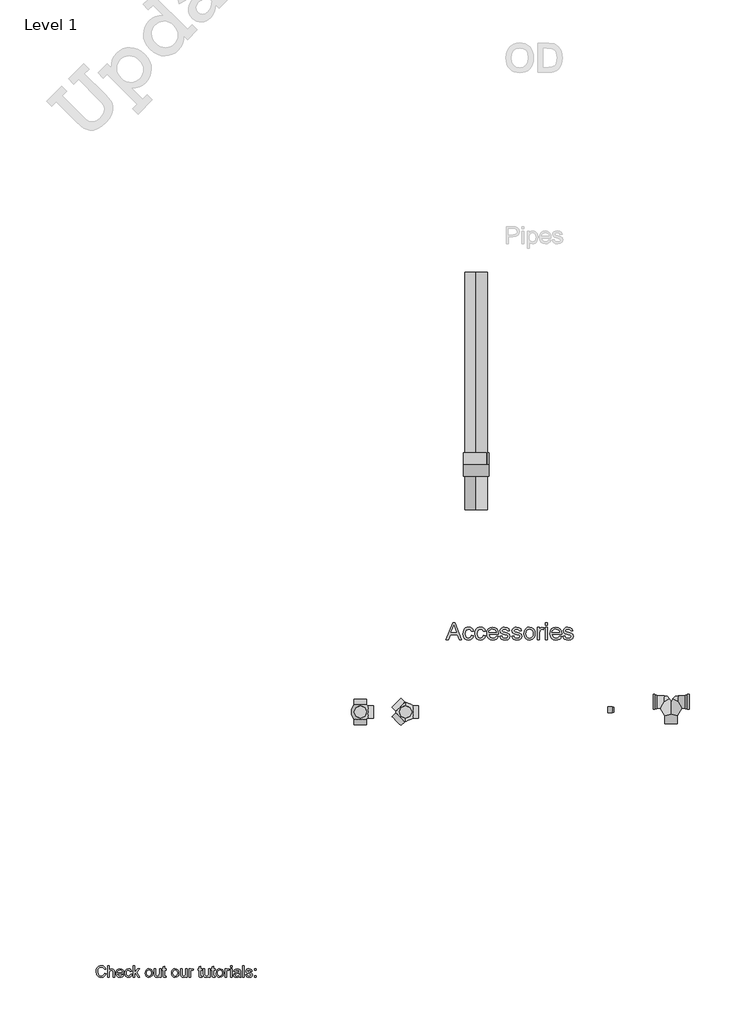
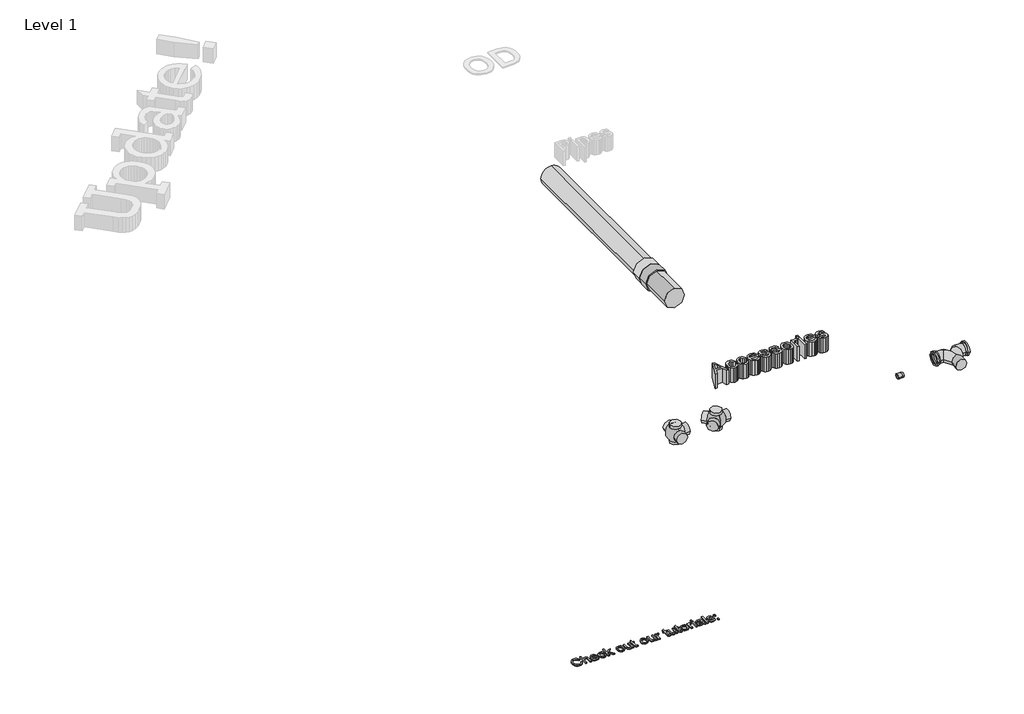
# One storey, part 1 of 2: 5 pipe fittings, 2 pipe segments, 2 proxies.
"""IFC4 building model written with IfcOpenShell, lengths in millimetres."""

from ifc_helpers import new_model, si_unit, point, frame, frame_2d, origin, origin_with_axes, place, context, project, spatial, polyline, circle_curve, trimmed, segment, composite_curve, outline, extrude, transform, mapped, element, save
from components import pipe_fitting_54520c76, pipe_fitting_47a06b1f, pipe_fitting_110mm_82014047, pipe_fitting_bb78ae25, var_9b790998

model = new_model("IFC4")

# Units and contexts
model_context = context("Model", 3, world=origin())
ifc_project = project(units=[si_unit("LENGTHUNIT", "METRE", prefix="MILLI")], contexts=[model_context])

# Site, building, storey
site = spatial("IfcSite", under=ifc_project)
building = spatial("IfcBuilding", under=site)
storey = spatial("IfcBuildingStorey", under=building, Name="Level 1", Elevation=0.0)

# Proxies
placement = place(None, origin())
element("IfcBuildingElementProxy", 1, Name="Arial 100", ObjectType="Arial 100", at=placement, inside=storey, context=model_context, shape_type="SweptSolid", body=[
    extrude(outline(polyline([(2259.9380169, 2354.0048448), (2272.4950556, 2350.7674833), (2266.7009142, 2336.1349769), (2257.6080976, 2325.4449393), (2245.6641955, 2318.9058368), (2231.3167976, 2316.726136), (2216.7517363, 2318.3754736), (2205.1849133, 2323.3234864), (2196.3189572, 2331.3984962), (2189.8564968, 2342.4288247), (2184.5957843, 2369.2842104), (2186.0826407, 2383.9320451), (2190.5432098, 2396.5810544), (2197.7444999, 2406.8296336), (2207.4535189, 2414.2761784), (2218.9682253, 2418.810324), (2231.5865778, 2420.3217058), (2245.3545614, 2418.3657999), (2256.7374435, 2412.4980821), (2265.3796047, 2403.080303), (2270.9254258, 2390.4742133), (2258.368387, 2387.4821064), (2248.0676912, 2402.9208875), (2231.0960684, 2407.7646671), (2211.4511699, 2402.3935899), (2200.3533964, 2387.9726157), (2197.152823, 2369.3087358), (2200.9420076, 2347.6772745), (2212.7387569, 2333.8571742), (2230.0659989, 2329.2831747), (2240.54757, 2330.8405419), (2249.2817017, 2335.5126432), (2255.8759865, 2343.2504278), (2259.9380169, 2354.0048448)])), origin_with_axes(), (0.0, 0.0, 1.0), 10.0),
    extrude(outline(polyline([(2288.1913541, 2318.2957658), (2288.1913541, 2418.752076), (2300.7483929, 2418.752076), (2300.7483929, 2381.8167237), (2310.5401853, 2390.6826797), (2322.6005834, 2393.6379984), (2336.7027265, 2390.4128996), (2345.2621143, 2381.4978926), (2347.8372883, 2364.9922537), (2347.8372883, 2318.2957658), (2335.2802495, 2318.2957658), (2335.2802495, 2363.692404), (2331.2825985, 2376.9361559), (2319.951833, 2381.0809597), (2309.6633999, 2378.2850565), (2302.7962693, 2370.7066874), (2300.7483929, 2357.487461), (2300.7483929, 2318.2957658), (2288.1913541, 2318.2957658)])), origin_with_axes(), (0.0, 0.0, 1.0), 10.0),
    extrude(outline(polyline([(2416.7538487, 2340.2705837), (2429.0656328, 2338.7009538), (2424.6295891, 2329.4241962), (2417.5509263, 2322.4896206), (2407.9890601, 2318.1670071), (2396.103406, 2316.726136), (2381.3697321, 2319.2124051), (2370.0328353, 2326.6712126), (2362.8039541, 2338.6181804), (2360.394327, 2354.5689306), (2362.8284796, 2371.0561753), (2370.1309372, 2383.3863535), (2381.3145498, 2391.0750872), (2395.3921675, 2393.6379984), (2409.0313925, 2391.0812186), (2419.9298966, 2383.410879), (2427.0760043, 2371.1052262), (2429.4580402, 2354.6425069), (2429.3844638, 2351.2579926), (2372.9513658, 2351.2579926), (2375.1249352, 2341.8586076), (2380.1741156, 2334.9485575), (2387.4612448, 2330.6995204), (2396.3486607, 2329.2831747), (2408.6604448, 2331.9073996), (2416.7538487, 2340.2705837)]), holes=[polyline([(2372.9513658, 2363.8150314), (2416.9010015, 2363.8150314), (2411.8732809, 2375.1948477), (2404.5524292, 2379.6094317), (2395.3431166, 2381.0809597), (2379.87981, 2376.3843329), (2375.0145706, 2370.8936941), (2372.9513658, 2363.8150314)])]), origin_with_axes(), (0.0, 0.0, 1.0), 10.0),
    extrude(outline(polyline([(2489.1039744, 2344.9794732), (2501.6610132, 2343.4098434), (2498.1600028, 2332.2415591), (2491.5810465, 2323.801733), (2482.5434122, 2318.4950352), (2471.6663678, 2316.726136), (2458.3091857, 2319.194011), (2447.8644027, 2326.5976362), (2441.1229652, 2338.612049), (2438.8758193, 2354.9122871), (2442.7140548, 2375.7711962), (2454.4127023, 2389.1743636), (2471.4946896, 2393.6379984), (2482.1050194, 2392.1051568), (2490.5877651, 2387.5066319), (2496.6731465, 2380.0876783), (2500.0913833, 2370.0935507), (2487.5343446, 2368.5239209), (2481.7095463, 2377.9294372), (2471.5927914, 2381.0809597), (2463.4779278, 2379.5297239), (2457.0369272, 2374.8760167), (2452.8338754, 2366.8684519), (2451.4328581, 2355.2556436), (2452.8032185, 2343.4864854), (2456.9142998, 2335.4513295), (2463.2388045, 2330.8252134), (2471.2494349, 2329.2831747), (2483.0829724, 2333.133673), (2489.1039744, 2344.9794732)])), origin_with_axes(), (0.0, 0.0, 1.0), 10.0),
    extrude(outline(polyline([(2512.6484221, 2318.2957658), (2512.6484221, 2418.752076), (2525.2054609, 2418.752076), (2525.2054609, 2364.7715246), (2553.3606962, 2392.0683686), (2570.7247264, 2392.0683686), (2542.2261345, 2364.428168), (2572.2943562, 2318.2957658), (2557.6281274, 2318.2957658), (2533.2252884, 2355.697102), (2525.2054609, 2347.9225292), (2525.2054609, 2318.2957658), (2512.6484221, 2318.2957658)])), origin_with_axes(), (0.0, 0.0, 1.0), 10.0),
    extrude(outline(polyline([(2619.3832516, 2355.1820672), (2622.099447, 2372.9691617), (2630.2480332, 2385.4710181), (2640.3157372, 2391.5962534), (2652.3700039, 2393.6379984), (2665.5616391, 2391.1517293), (2676.0983925, 2383.6929218), (2683.005377, 2371.8501873), (2685.3077052, 2356.2121368), (2681.2364777, 2333.869437), (2669.3784148, 2321.2265591), (2652.3700039, 2316.726136), (2639.0189531, 2319.2032081), (2628.4944624, 2326.6344244), (2621.6610543, 2338.7254793), (2619.3832516, 2355.1820672)]), holes=[polyline([(2631.9402904, 2355.2065927), (2633.3934243, 2343.8421047), (2637.7528259, 2335.7456351), (2644.3133882, 2330.8987898), (2652.3700039, 2329.2831747), (2660.3898314, 2330.9079869), (2666.9381309, 2335.7824233), (2671.2975325, 2343.9861918), (2672.7506664, 2355.5990001), (2671.2883355, 2366.6323943), (2666.9013427, 2374.6184993), (2660.3438461, 2379.4653446), (2652.3700039, 2381.0809597), (2644.3133882, 2379.4714759), (2637.7528259, 2374.6430248), (2633.3934243, 2366.5649493), (2631.9402904, 2355.2065927)])]), origin_with_axes(), (0.0, 0.0, 1.0), 10.0),
    extrude(outline(polyline([(2746.5232692, 2318.2957658), (2746.5232692, 2330.9754319), (2736.6885572, 2320.28846), (2723.8617383, 2316.726136), (2712.0527262, 2319.2277335), (2703.9102714, 2325.5062529), (2700.1701378, 2334.7523537), (2699.4343738, 2346.4264757), (2699.4343738, 2392.0683686), (2711.9914125, 2392.0683686), (2711.9914125, 2352.3371131), (2712.751702, 2339.5348197), (2717.7181089, 2332.0177642), (2727.0745743, 2329.2831747), (2737.5592112, 2332.0790779), (2744.4876555, 2339.6942352), (2746.5232692, 2353.6860138), (2746.5232692, 2392.0683686), (2759.0803079, 2392.0683686), (2759.0803079, 2318.2957658), (2746.5232692, 2318.2957658)])), origin_with_axes(), (0.0, 0.0, 1.0), 10.0),
    extrude(outline(polyline([(2803.0299436, 2328.76814), (2804.5995735, 2317.9278838), (2795.2063199, 2316.726136), (2784.6848948, 2318.8108006), (2779.436445, 2324.2799796), (2777.9158661, 2338.5292756), (2777.9158661, 2379.5113298), (2768.498087, 2379.5113298), (2768.498087, 2392.0683686), (2777.9158661, 2392.0683686), (2777.9158661, 2409.9964845), (2790.4729048, 2417.3786499), (2790.4729048, 2392.0683686), (2803.0299436, 2392.0683686), (2803.0299436, 2379.5113298), (2790.4729048, 2379.5113298), (2790.4729048, 2338.8971576), (2791.1350924, 2332.4224344), (2793.2810707, 2330.1293033), (2797.5607646, 2329.2831747), (2803.0299436, 2328.76814)])), origin_with_axes(), (0.0, 0.0, 1.0), 10.0),
    extrude(outline(polyline([(2851.6884688, 2355.1820672), (2854.4046642, 2372.9691617), (2862.5532504, 2385.4710181), (2872.6209544, 2391.5962534), (2884.6752211, 2393.6379984), (2897.8668563, 2391.1517293), (2908.4036098, 2383.6929218), (2915.3105942, 2371.8501873), (2917.6129224, 2356.2121368), (2913.541695, 2333.869437), (2901.683632, 2321.2265591), (2884.6752211, 2316.726136), (2871.3241703, 2319.2032081), (2860.7996796, 2326.6344244), (2853.9662715, 2338.7254793), (2851.6884688, 2355.1820672)]), holes=[polyline([(2864.2455076, 2355.2065927), (2865.6986415, 2343.8421047), (2870.0580431, 2335.7456351), (2876.6186054, 2330.8987898), (2884.6752211, 2329.2831747), (2892.6950486, 2330.9079869), (2899.2433481, 2335.7824233), (2903.6027497, 2343.9861918), (2905.0558836, 2355.5990001), (2903.5935527, 2366.6323943), (2899.2065599, 2374.6184993), (2892.6490633, 2379.4653446), (2884.6752211, 2381.0809597), (2876.6186054, 2379.4714759), (2870.0580431, 2374.6430248), (2865.6986415, 2366.5649493), (2864.2455076, 2355.2065927)])]), origin_with_axes(), (0.0, 0.0, 1.0), 10.0),
    extrude(outline(polyline([(2978.8284864, 2318.2957658), (2978.8284864, 2330.9754319), (2968.9937744, 2320.28846), (2956.1669555, 2316.726136), (2944.3579434, 2319.2277335), (2936.2154886, 2325.5062529), (2932.475355, 2334.7523537), (2931.739591, 2346.4264757), (2931.739591, 2392.0683686), (2944.2966298, 2392.0683686), (2944.2966298, 2352.3371131), (2945.0569192, 2339.5348197), (2950.0233262, 2332.0177642), (2959.3797916, 2329.2831747), (2969.8644284, 2332.0790779), (2976.7928727, 2339.6942352), (2978.8284864, 2353.6860138), (2978.8284864, 2392.0683686), (2991.3855251, 2392.0683686), (2991.3855251, 2318.2957658), (2978.8284864, 2318.2957658)])), origin_with_axes(), (0.0, 0.0, 1.0), 10.0),
    extrude(outline(polyline([(3008.6514535, 2318.2957658), (3008.6514535, 2392.0683686), (3019.6388624, 2392.0683686), (3019.6388624, 2381.1545361), (3027.4379607, 2391.2099773), (3035.2861099, 2393.6379984), (3047.8921996, 2389.7629748), (3043.6983449, 2378.5057857), (3034.869177, 2381.0809597), (3027.7690545, 2378.6038876), (3023.2441059, 2371.736757), (3021.2084922, 2357.0705281), (3021.2084922, 2318.2957658), (3008.6514535, 2318.2957658)])), origin_with_axes(), (0.0, 0.0, 1.0), 10.0),
    extrude(outline(polyline([(3121.6648024, 2328.76814), (3123.2344322, 2317.9278838), (3113.8411786, 2316.726136), (3103.3197535, 2318.8108006), (3098.0713037, 2324.2799796), (3096.5507248, 2338.5292756), (3096.5507248, 2379.5113298), (3087.1329458, 2379.5113298), (3087.1329458, 2392.0683686), (3096.5507248, 2392.0683686), (3096.5507248, 2409.9964845), (3109.1077636, 2417.3786499), (3109.1077636, 2392.0683686), (3121.6648024, 2392.0683686), (3121.6648024, 2379.5113298), (3109.1077636, 2379.5113298), (3109.1077636, 2338.8971576), (3109.7699512, 2332.4224344), (3111.9159295, 2330.1293033), (3116.1956234, 2329.2831747), (3121.6648024, 2328.76814)])), origin_with_axes(), (0.0, 0.0, 1.0), 10.0),
    extrude(outline(polyline([(3181.3107365, 2318.2957658), (3181.3107365, 2330.9754319), (3171.4760245, 2320.28846), (3158.6492056, 2316.726136), (3146.8401936, 2319.2277335), (3138.6977387, 2325.5062529), (3134.9576051, 2334.7523537), (3134.2218411, 2346.4264757), (3134.2218411, 2392.0683686), (3146.7788799, 2392.0683686), (3146.7788799, 2352.3371131), (3147.5391694, 2339.5348197), (3152.5055763, 2332.0177642), (3161.8620417, 2329.2831747), (3172.3466786, 2332.0790779), (3179.2751228, 2339.6942352), (3181.3107365, 2353.6860138), (3181.3107365, 2392.0683686), (3193.8677753, 2392.0683686), (3193.8677753, 2318.2957658), (3181.3107365, 2318.2957658)])), origin_with_axes(), (0.0, 0.0, 1.0), 10.0),
    extrude(outline(polyline([(3237.817411, 2328.76814), (3239.3870408, 2317.9278838), (3229.9937872, 2316.726136), (3219.4723622, 2318.8108006), (3214.2239124, 2324.2799796), (3212.7033334, 2338.5292756), (3212.7033334, 2379.5113298), (3203.2855544, 2379.5113298), (3203.2855544, 2392.0683686), (3212.7033334, 2392.0683686), (3212.7033334, 2409.9964845), (3225.2603722, 2417.3786499), (3225.2603722, 2392.0683686), (3237.817411, 2392.0683686), (3237.817411, 2379.5113298), (3225.2603722, 2379.5113298), (3225.2603722, 2338.8971576), (3225.9225598, 2332.4224344), (3228.0685381, 2330.1293033), (3232.348232, 2329.2831747), (3237.817411, 2328.76814)])), origin_with_axes(), (0.0, 0.0, 1.0), 10.0),
    extrude(outline(polyline([(3247.2351901, 2355.1820672), (3249.9513855, 2372.9691617), (3258.0999717, 2385.4710181), (3268.1676756, 2391.5962534), (3280.2219423, 2393.6379984), (3293.4135775, 2391.1517293), (3303.950331, 2383.6929218), (3310.8573154, 2371.8501873), (3313.1596436, 2356.2121368), (3309.0884162, 2333.869437), (3297.2303532, 2321.2265591), (3280.2219423, 2316.726136), (3266.8708916, 2319.2032081), (3256.3464008, 2326.6344244), (3249.5129927, 2338.7254793), (3247.2351901, 2355.1820672)]), holes=[polyline([(3259.7922288, 2355.2065927), (3261.2453627, 2343.8421047), (3265.6047644, 2335.7456351), (3272.1653266, 2330.8987898), (3280.2219423, 2329.2831747), (3288.2417698, 2330.9079869), (3294.7900693, 2335.7824233), (3299.1494709, 2343.9861918), (3300.6026048, 2355.5990001), (3299.1402739, 2366.6323943), (3294.7532811, 2374.6184993), (3288.1957845, 2379.4653446), (3280.2219423, 2381.0809597), (3272.1653266, 2379.4714759), (3265.6047644, 2374.6430248), (3261.2453627, 2366.5649493), (3259.7922288, 2355.2065927)])]), origin_with_axes(), (0.0, 0.0, 1.0), 10.0),
    extrude(outline(polyline([(3327.2863122, 2318.2957658), (3327.2863122, 2392.0683686), (3338.2737211, 2392.0683686), (3338.2737211, 2381.1545361), (3346.0728194, 2391.2099773), (3353.9209687, 2393.6379984), (3366.5270584, 2389.7629748), (3362.3332036, 2378.5057857), (3353.5040357, 2381.0809597), (3346.4039132, 2378.6038876), (3341.8789647, 2371.736757), (3339.843351, 2357.0705281), (3339.843351, 2318.2957658), (3327.2863122, 2318.2957658)])), origin_with_axes(), (0.0, 0.0, 1.0), 10.0),
    extrude(outline(polyline([(3374.3752076, 2406.1950372), (3374.3752076, 2418.752076), (3386.9322464, 2418.752076), (3386.9322464, 2406.1950372), (3374.3752076, 2406.1950372)])), origin_with_axes(), (0.0, 0.0, 1.0), 10.0),
    extrude(outline(polyline([(3374.3752076, 2318.2957658), (3374.3752076, 2392.0683686), (3386.9322464, 2392.0683686), (3386.9322464, 2318.2957658), (3374.3752076, 2318.2957658)])), origin_with_axes(), (0.0, 0.0, 1.0), 10.0),
    extrude(outline(polyline([(3452.8566999, 2327.7135449), (3440.6798059, 2319.2032081), (3427.2275876, 2316.726136), (3416.7337537, 2318.2160581), (3408.9929033, 2322.6858243), (3404.2196345, 2329.4732471), (3402.6285448, 2337.9161389), (3405.0320405, 2347.8489528), (3411.3473481, 2355.0594399), (3420.1397278, 2359.1797182), (3431.0045094, 2361.0681791), (3452.7831235, 2365.3846612), (3452.8566999, 2368.1805644), (3449.3986091, 2377.4511907), (3435.5171952, 2381.0809597), (3422.8130036, 2378.6652012), (3416.7552134, 2370.0935507), (3404.1981747, 2371.6631806), (3409.6305655, 2383.9259138), (3420.5689235, 2391.1118754), (3437.135876, 2393.6379984), (3452.3539278, 2391.406181), (3460.9501038, 2385.8021119), (3464.800602, 2377.2795124), (3465.4137387, 2366.2921035), (3465.4137387, 2350.6693814), (3466.0514008, 2328.8539791), (3468.5529984, 2318.2957658), (3455.9959596, 2318.2957658), (3452.8566999, 2327.7135449)]), holes=[polyline([(3452.8566999, 2352.8276224), (3432.5986647, 2348.9771242), (3421.7951968, 2346.9415105), (3416.9023662, 2343.6305726), (3415.1855836, 2338.7990557), (3418.9257172, 2332.0055015), (3429.9008634, 2329.2831747), (3442.605055, 2332.2875444), (3450.7965607, 2339.5593451), (3452.7831235, 2349.2714298), (3452.8566999, 2352.8276224)])]), origin_with_axes(), (0.0, 0.0, 1.0), 10.0),
    extrude(outline(polyline([(3482.679667, 2318.2957658), (3482.679667, 2418.752076), (3495.2367057, 2418.752076), (3495.2367057, 2318.2957658), (3482.679667, 2318.2957658)])), origin_with_axes(), (0.0, 0.0, 1.0), 10.0),
    extrude(outline(polyline([(3509.3633744, 2340.2705837), (3521.9204131, 2341.8402135), (3527.7329486, 2332.5205363), (3541.0502769, 2329.2831747), (3553.8525703, 2332.2507562), (3558.0218996, 2339.2159886), (3553.8280448, 2344.8568459), (3540.9031241, 2348.437564), (3521.9939895, 2354.5811933), (3513.7411701, 2361.7548922), (3510.9330042, 2371.8839098), (3513.1893471, 2381.2403752), (3519.3452392, 2388.3895486), (3527.3282785, 2392.1051568), (3538.1317464, 2393.6379984), (3553.4111119, 2391.1731891), (3563.1231966, 2384.5022622), (3567.4396787, 2373.2328104), (3554.8826399, 2371.6631806), (3550.1614876, 2378.5916248), (3539.112765, 2381.0809597), (3527.0952865, 2378.7019894), (3523.490043, 2373.159234), (3524.9860964, 2369.5049396), (3529.6704605, 2366.7335619), (3540.4861911, 2364.060286), (3558.9170791, 2358.1496486), (3567.4764669, 2351.4541963), (3570.5789384, 2340.5403638), (3566.9369066, 2328.5228853), (3556.4277443, 2319.804082), (3540.8785986, 2316.726136), (3528.2173266, 2318.2099267), (3518.9773572, 2322.6612988), (3512.8092024, 2330.0312015), (3509.3633744, 2340.2705837)])), origin_with_axes(), (0.0, 0.0, 1.0), 10.0),
    extrude(outline(polyline([(3587.8448667, 2318.2957658), (3587.8448667, 2330.8528046), (3600.4019054, 2330.8528046), (3600.4019054, 2318.2957658), (3587.8448667, 2318.2957658)])), origin_with_axes(), (0.0, 0.0, 1.0), 10.0),
    extrude(outline(polyline([(3587.8448667, 2379.5113298), (3587.8448667, 2392.0683686), (3600.4019054, 2392.0683686), (3600.4019054, 2379.5113298), (3587.8448667, 2379.5113298)])), origin_with_axes(), (0.0, 0.0, 1.0), 10.0),
])
element("IfcBuildingElementProxy", 2, Name="Arial 150", ObjectType="Arial 150", at=placement, inside=storey, context=model_context, shape_type="SweptSolid", body=[
    extrude(outline(polyline([(5285.5826755, 5304.8633677), (5345.7313817, 5455.5478329), (5361.7710367, 5455.5478329), (5421.9197429, 5304.8633677), (5402.0173269, 5304.8633677), (5384.7636614, 5351.952263), (5322.7019688, 5351.952263), (5305.4850914, 5304.8633677), (5285.5826755, 5304.8633677)]), holes=[polyline([(5329.6181503, 5370.7878212), (5377.884268, 5370.7878212), (5364.3094224, 5407.8335381), (5353.7512092, 5436.7122747), (5344.3702183, 5411.0708997), (5329.6181503, 5370.7878212)])]), origin_with_axes(), (0.0, 0.0, 1.0), 150.0),
    extrude(outline(polyline([(5510.3217863, 5344.8889287), (5529.1573445, 5342.534484), (5523.905829, 5325.7820576), (5514.0373945, 5313.1223184), (5500.4809429, 5305.1622718), (5484.1653765, 5302.5089229), (5464.1296033, 5306.2107355), (5448.4624288, 5317.3161732), (5438.3502725, 5335.3377924), (5434.9795537, 5359.7881495), (5436.418892, 5376.5497729), (5440.7369069, 5391.0765132), (5448.0025763, 5402.8073503), (5458.2848781, 5411.1812643), (5470.5859323, 5416.2028535), (5483.9078591, 5417.8767166), (5499.8233539, 5415.5774541), (5512.5474724, 5408.6796667), (5521.6755444, 5397.5512363), (5526.8028997, 5382.560045), (5507.9673415, 5380.2056003), (5499.2301442, 5394.3138748), (5484.0550119, 5399.0411584), (5471.8827163, 5396.7143048), (5462.2212154, 5389.7337439), (5455.9166377, 5377.7223968), (5453.8151118, 5360.3031843), (5455.8706525, 5342.6494471), (5462.0372744, 5330.5967132), (5471.5240314, 5323.6575391), (5483.5399771, 5321.344481), (5493.2934485, 5322.7884179), (5501.2902833, 5327.1202284), (5507.1074174, 5334.4502771), (5510.3217863, 5344.8889287)])), origin_with_axes(), (0.0, 0.0, 1.0), 150.0),
    extrude(outline(polyline([(5616.2718009, 5344.8889287), (5635.1073591, 5342.534484), (5629.8558436, 5325.7820576), (5619.9874091, 5313.1223184), (5606.4309575, 5305.1622718), (5590.1153911, 5302.5089229), (5570.0796179, 5306.2107355), (5554.4124434, 5317.3161732), (5544.3002871, 5335.3377924), (5540.9295683, 5359.7881495), (5542.3689066, 5376.5497729), (5546.6869215, 5391.0765132), (5553.9525909, 5402.8073503), (5564.2348927, 5411.1812643), (5576.5359469, 5416.2028535), (5589.8578737, 5417.8767166), (5605.7733685, 5415.5774541), (5618.497487, 5408.6796667), (5627.625559, 5397.5512363), (5632.7529143, 5382.560045), (5613.9173561, 5380.2056003), (5605.1801588, 5394.3138748), (5590.0050265, 5399.0411584), (5577.8327309, 5396.7143048), (5568.17123, 5389.7337439), (5561.8666524, 5377.7223968), (5559.7651265, 5360.3031843), (5561.8206671, 5342.6494471), (5567.9872891, 5330.5967132), (5577.474046, 5323.6575391), (5589.4899917, 5321.344481), (5599.2434631, 5322.7884179), (5607.2402979, 5327.1202284), (5613.057432, 5334.4502771), (5616.2718009, 5344.8889287)])), origin_with_axes(), (0.0, 0.0, 1.0), 150.0),
    extrude(outline(polyline([(5729.0644206, 5337.8255944), (5747.5320968, 5335.4711496), (5740.8780312, 5321.5560132), (5730.2600371, 5311.1541498), (5715.9172378, 5304.6702296), (5698.0887566, 5302.5089229), (5675.9882458, 5306.2383266), (5658.9829006, 5317.4265378), (5648.1395788, 5335.3469895), (5644.5251381, 5359.2731147), (5648.1763669, 5384.0039819), (5659.1300534, 5402.4992492), (5675.9054723, 5414.0323497), (5697.0218989, 5417.8767166), (5717.4807363, 5414.0415468), (5733.8284925, 5402.5360374), (5744.5476541, 5384.0775583), (5748.120708, 5359.3834793), (5748.0103434, 5354.3067078), (5663.3606963, 5354.3067078), (5666.6210505, 5340.2076303), (5674.1948211, 5329.8425551), (5685.1255148, 5323.4689996), (5698.4566386, 5321.344481), (5716.9243148, 5325.2808184), (5729.0644206, 5337.8255944)]), holes=[polyline([(5663.3606963, 5373.142266), (5729.2851498, 5373.142266), (5726.737567, 5383.0934739), (5721.7435689, 5390.2119905), (5710.7622914, 5396.8338664), (5696.9483225, 5399.0411584), (5684.2517951, 5397.2799234), (5673.7533627, 5391.9962182), (5666.4555036, 5383.76026), (5663.3606963, 5373.142266)])]), origin_with_axes(), (0.0, 0.0, 1.0), 150.0),
    extrude(outline(polyline([(5759.8929318, 5337.8255944), (5778.72849, 5340.1800392), (5781.6991371, 5332.1234235), (5787.4472933, 5326.2005234), (5807.4232856, 5321.344481), (5826.6267258, 5325.7958532), (5832.8807197, 5336.2437018), (5831.3080241, 5341.0445619), (5826.5899376, 5344.7049877), (5807.2025564, 5350.0760649), (5778.8388546, 5359.2915088), (5766.4596254, 5370.0520572), (5762.2473766, 5385.2455836), (5765.631891, 5399.2802817), (5774.865729, 5410.0040419), (5786.840288, 5415.5774541), (5803.0454899, 5417.8767166), (5825.9645382, 5414.1795025), (5840.5326652, 5404.1731122), (5847.0073883, 5387.2689346), (5828.1718301, 5384.9144898), (5821.0901017, 5395.3071562), (5804.5170179, 5399.0411584), (5786.4908001, 5395.4727031), (5781.0829348, 5387.15857), (5783.3270149, 5381.6771282), (5790.353561, 5377.5200617), (5806.577157, 5373.510148), (5834.223489, 5364.6441919), (5847.0625706, 5354.6010134), (5851.7162778, 5338.2302646), (5846.2532302, 5320.2040469), (5830.4894867, 5307.1258419), (5807.1657682, 5302.5089229), (5788.1738602, 5304.734609), (5774.313906, 5311.4116672), (5765.0616739, 5322.4665211), (5759.8929318, 5337.8255944)])), origin_with_axes(), (0.0, 0.0, 1.0), 150.0),
    extrude(outline(polyline([(5865.8429464, 5337.8255944), (5884.6785046, 5340.1800392), (5887.6491517, 5332.1234235), (5893.3973079, 5326.2005234), (5913.3733002, 5321.344481), (5932.5767404, 5325.7958532), (5938.8307343, 5336.2437018), (5937.2580388, 5341.0445619), (5932.5399522, 5344.7049877), (5913.152571, 5350.0760649), (5884.7888692, 5359.2915088), (5872.4096401, 5370.0520572), (5868.1973912, 5385.2455836), (5871.5819056, 5399.2802817), (5880.8157436, 5410.0040419), (5892.7903026, 5415.5774541), (5908.9955045, 5417.8767166), (5931.9145528, 5414.1795025), (5946.4826798, 5404.1731122), (5952.9574029, 5387.2689346), (5934.1218448, 5384.9144898), (5927.0401163, 5395.3071562), (5910.4670325, 5399.0411584), (5892.4408147, 5395.4727031), (5887.0329494, 5387.15857), (5889.2770295, 5381.6771282), (5896.3035756, 5377.5200617), (5912.5271716, 5373.510148), (5940.1735036, 5364.6441919), (5953.0125852, 5354.6010134), (5957.6662924, 5338.2302646), (5952.2032448, 5320.2040469), (5936.4395013, 5307.1258419), (5913.1157828, 5302.5089229), (5894.1238748, 5304.734609), (5880.2639207, 5311.4116672), (5871.0116885, 5322.4665211), (5865.8429464, 5337.8255944)])), origin_with_axes(), (0.0, 0.0, 1.0), 150.0),
    extrude(outline(polyline([(5974.1474058, 5360.1928197), (5978.2216989, 5386.8734614), (5990.4445782, 5405.6262461), (6005.5461341, 5414.814099), (6023.6275342, 5417.8767166), (6043.414987, 5414.1473128), (6059.2201172, 5402.9591017), (6069.5805939, 5385.1949998), (6073.0340861, 5361.7379241), (6071.5073758, 5342.7092279), (6066.927245, 5328.2238743), (6059.4270508, 5317.375954), (6049.1401505, 5309.2595575), (6036.9218698, 5304.1965815), (6023.6275342, 5302.5089229), (6003.6009581, 5306.224531), (5987.8142219, 5317.3713555), (5977.5641099, 5335.5079378), (5974.1474058, 5360.1928197)]), holes=[polyline([(5992.982964, 5360.2296079), (5995.1626648, 5343.182876), (6001.7017673, 5331.0381716), (6011.5426106, 5323.7679037), (6023.6275342, 5321.344481), (6035.6572754, 5323.7816993), (6045.4797247, 5331.0933539), (6052.0188272, 5343.3990066), (6054.198528, 5360.8182191), (6052.0050316, 5377.3683104), (6045.4245424, 5389.3474678), (6035.5882975, 5396.6177358), (6023.6275342, 5399.0411584), (6011.5426106, 5396.6269328), (6001.7017673, 5389.384256), (5995.1626648, 5377.2671428), (5992.982964, 5360.2296079)])]), origin_with_axes(), (0.0, 0.0, 1.0), 150.0),
    extrude(outline(polyline([(6094.2240891, 5304.8633677), (6094.2240891, 5415.5222718), (6110.7052024, 5415.5222718), (6110.7052024, 5399.151523), (6122.4038499, 5414.2346848), (6134.1760737, 5417.8767166), (6153.0852083, 5412.064181), (6146.7944262, 5395.1783975), (6133.5506743, 5399.0411584), (6122.9004906, 5395.3255503), (6116.1130678, 5385.0248544), (6113.0596472, 5363.0255111), (6113.0596472, 5304.8633677), (6094.2240891, 5304.8633677)])), origin_with_axes(), (0.0, 0.0, 1.0), 150.0),
    extrude(outline(polyline([(6164.8574321, 5436.7122747), (6164.8574321, 5455.5478329), (6183.6929903, 5455.5478329), (6183.6929903, 5436.7122747), (6164.8574321, 5436.7122747)])), origin_with_axes(), (0.0, 0.0, 1.0), 150.0),
    extrude(outline(polyline([(6164.8574321, 5304.8633677), (6164.8574321, 5415.5222718), (6183.6929903, 5415.5222718), (6183.6929903, 5304.8633677), (6164.8574321, 5304.8633677)])), origin_with_axes(), (0.0, 0.0, 1.0), 150.0),
    extrude(outline(polyline([(6289.4222757, 5337.8255944), (6307.8899519, 5335.4711496), (6301.2358863, 5321.5560132), (6290.6178922, 5311.1541498), (6276.2750929, 5304.6702296), (6258.4466117, 5302.5089229), (6236.3461008, 5306.2383266), (6219.3407556, 5317.4265378), (6208.4974338, 5335.3469895), (6204.8829932, 5359.2731147), (6208.534222, 5384.0039819), (6219.4879084, 5402.4992492), (6236.2633274, 5414.0323497), (6257.3797539, 5417.8767166), (6277.8385914, 5414.0415468), (6294.1863475, 5402.5360374), (6304.9055092, 5384.0775583), (6308.478563, 5359.3834793), (6308.3681984, 5354.3067078), (6223.7185514, 5354.3067078), (6226.9789055, 5340.2076303), (6234.5526761, 5329.8425551), (6245.4833699, 5323.4689996), (6258.8144937, 5321.344481), (6277.2821699, 5325.2808184), (6289.4222757, 5337.8255944)]), holes=[polyline([(6223.7185514, 5373.142266), (6289.6430049, 5373.142266), (6287.0954221, 5383.0934739), (6282.101424, 5390.2119905), (6271.1201464, 5396.8338664), (6257.3061775, 5399.0411584), (6244.6096502, 5397.2799234), (6234.1112177, 5391.9962182), (6226.8133586, 5383.76026), (6223.7185514, 5373.142266)])]), origin_with_axes(), (0.0, 0.0, 1.0), 150.0),
    extrude(outline(polyline([(6320.2507869, 5337.8255944), (6339.086345, 5340.1800392), (6342.0569922, 5332.1234235), (6347.8051483, 5326.2005234), (6367.7811407, 5321.344481), (6386.9845808, 5325.7958532), (6393.2385747, 5336.2437018), (6391.6658792, 5341.0445619), (6386.9477926, 5344.7049877), (6367.5604115, 5350.0760649), (6339.1967096, 5359.2915088), (6326.8174805, 5370.0520572), (6322.6052317, 5385.2455836), (6325.989746, 5399.2802817), (6335.2235841, 5410.0040419), (6347.198143, 5415.5774541), (6363.4033449, 5417.8767166), (6386.3223932, 5414.1795025), (6400.8905202, 5404.1731122), (6407.3652433, 5387.2689346), (6388.5296852, 5384.9144898), (6381.4479568, 5395.3071562), (6364.8748729, 5399.0411584), (6346.8486551, 5395.4727031), (6341.4407898, 5387.15857), (6343.68487, 5381.6771282), (6350.7114161, 5377.5200617), (6366.9350121, 5373.510148), (6394.581344, 5364.6441919), (6407.4204256, 5354.6010134), (6412.0741329, 5338.2302646), (6406.6110853, 5320.2040469), (6390.8473418, 5307.1258419), (6367.5236233, 5302.5089229), (6348.5317153, 5304.734609), (6334.6717611, 5311.4116672), (6325.4195289, 5322.4665211), (6320.2507869, 5337.8255944)])), origin_with_axes(), (0.0, 0.0, 1.0), 150.0),
])

# Pipe fittings
pipe_fitting_shape = pipe_fitting_54520c76(model_context)
element("IfcPipeFitting", 3, ObjectType="Wavin_PipeAccessory_PeBranchConvexX3 : 90°", at=placement, inside=storey, context=model_context, shape_type="MappedRepresentation", body=[
    mapped(pipe_fitting_shape, transform((4525.8833311, 4667.3516636, 200.0), x_axis=(0.0, -1.0000000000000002, 0.0), y_axis=(1.0000000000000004, 0.0, 0.0), z_axis=(0.0, 0.0, 1.0000000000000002))),
])
pipe_fitting_2_shape = pipe_fitting_47a06b1f(model_context)
element("IfcPipeFitting", 4, ObjectType="Wavin_PipeAccessory_PeBranchConvexX3 : 135°", at=placement, inside=storey, context=model_context, shape_type="MappedRepresentation", body=[
    mapped(pipe_fitting_2_shape, transform((4925.8833311, 4667.3516636, 200.0), x_axis=(0.0, -1.0000000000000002, 0.0), y_axis=(1.0000000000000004, 0.0, 0.0), z_axis=(0.0, 0.0, 1.0000000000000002))),
])
pipe_fitting_110mm_shape = pipe_fitting_110mm_82014047(model_context)
element("IfcPipeFitting", 5, ObjectType="Wavin_PipeFitting_PeBranchYWc : 110mm", at=placement, inside=storey, context=model_context, shape_type="MappedRepresentation", body=[
    mapped(pipe_fitting_110mm_shape, transform((7278.3172649, 4648.2957658, 0.0), x_axis=(0.0, 1.0000000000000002, 0.0), y_axis=(-1.0000000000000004, 0.0, 0.0), z_axis=(0.0, 0.0, 1.0000000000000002))),
])
pipe_fitting_3_shape = pipe_fitting_bb78ae25(model_context)
element("IfcPipeFitting", 6, ObjectType="Wavin_PipeFitting_PeReducerMft : 50x1 1/2\"", at=placement, inside=storey, context=model_context, shape_type="MappedRepresentation", body=[
    mapped(pipe_fitting_3_shape, transform((6739.4982203, 4686.5223697, 0.0), x_axis=(1.0, 0.0, 0.0), y_axis=(0.0, 1.0, 0.0), z_axis=(0.0, 0.0, 1.0))),
])
var_shape = var_9b790998(model_context)
element("IfcPipeFitting", 7, ObjectType="Wavin_PipeFitting_PeZDoNotUseElectrofusionCouplerNested : var.", at=placement, inside=storey, context=model_context, shape_type="MappedRepresentation", body=[
    mapped(var_shape, transform((5550.5314626, 6857.7188209, 150.0), x_axis=(0.0, 1.0000000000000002, 0.0), y_axis=(-1.0000000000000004, 0.0, 0.0), z_axis=(0.0, 0.0, 1.0000000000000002))),
])

# Pipe segments
element("IfcPipeSegment", 8, ObjectType="Wavin_Pipe_PeOd", at=placement, inside=storey, context=model_context, shape_type="SweptSolid", body=[
    extrude(outline(composite_curve([segment(trimmed(circle_curve(frame_2d((150.0, 5550.5314626)), 100.0), [point((150.0, 5450.5314626))], [point((50.0, 5550.5314626))], False, "CARTESIAN"), True, "CONTINUOUS"), segment(trimmed(circle_curve(frame_2d((150.0, 5550.5314626)), 100.0), [point((50.0, 5550.5314626))], [point((150.0, 5650.5314626))], False, "CARTESIAN"), True, "CONTINUOUS"), segment(trimmed(circle_curve(frame_2d((150.0, 5550.5314626)), 100.0), [point((150.0, 5650.5314626))], [point((250.0, 5550.5314626))], False, "CARTESIAN"), True, "CONTINUOUS"), segment(trimmed(circle_curve(frame_2d((150.0, 5550.5314626)), 100.0), [point((250.0, 5550.5314626))], [point((150.0, 5450.5314626))], False, "CARTESIAN"), True, "CONTINUOUS")], self_intersect=False)), frame((0.0, 6458.7188209, 0.0), z_axis=(0.0, 1.0, 0.0), x_axis=(0.0, 0.0, 1.0)), (0.0, 0.0, 1.0), 399.0),
])
element("IfcPipeSegment", 9, ObjectType="Wavin_Pipe_PeOd", at=placement, inside=storey, context=model_context, shape_type="SweptSolid", body=[
    extrude(outline(composite_curve([segment(trimmed(circle_curve(frame_2d((150.0, 5550.5314626)), 100.0), [point((150.0, 5650.5314626))], [point((250.0, 5550.5314626))], False, "CARTESIAN"), True, "CONTINUOUS"), segment(trimmed(circle_curve(frame_2d((150.0, 5550.5314626)), 100.0), [point((250.0, 5550.5314626))], [point((150.0, 5450.5314626))], False, "CARTESIAN"), True, "CONTINUOUS"), segment(trimmed(circle_curve(frame_2d((150.0, 5550.5314626)), 100.0), [point((150.0, 5450.5314626))], [point((50.0, 5550.5314626))], False, "CARTESIAN"), True, "CONTINUOUS"), segment(trimmed(circle_curve(frame_2d((150.0, 5550.5314626)), 100.0), [point((50.0, 5550.5314626))], [point((150.0, 5650.5314626))], False, "CARTESIAN"), True, "CONTINUOUS")], self_intersect=False)), frame((0.0, 6857.7188209, 0.0), z_axis=(0.0, 1.0, 0.0), x_axis=(0.0, 0.0, 1.0)), (0.0, 0.0, 1.0), 1700.0),
])

save(model, "model.ifc")
